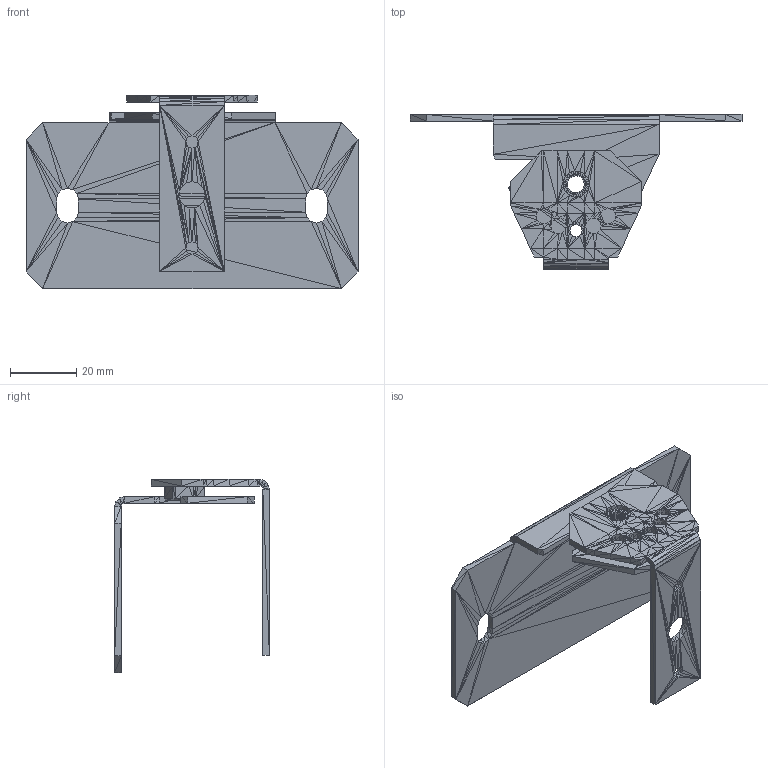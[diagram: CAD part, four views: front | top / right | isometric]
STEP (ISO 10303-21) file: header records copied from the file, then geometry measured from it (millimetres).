
FILE_DESCRIPTION((''),'2;1');
FILE_NAME('028788', '2025-07-22T09:46:13', (''), (''), 'ImageToStl.com STEP Converter','', '');
FILE_SCHEMA(('AUTOMOTIVE_DESIGN_CC2'));
Length unit declared in the file: metre
Products named in the file (1): product0
Bounding box: 100 x 46.64 x 58.19 mm (x, y, z)
Surface area: 18552 mm2 (no closed solid volume)
Topology: 0 solids, 1328 shells, 1328 faces, 3984 edges, 644 vertices
Faces by surface type: plane 1328
Entity records: 30532 total; most frequent: DIRECTION 6642, ORIENTED_EDGE 3984, EDGE_CURVE 3984, LINE 3984, VECTOR 3984, AXIS2_PLACEMENT_3D 1329, FACE_SURFACE 1328, PLANE 1328
